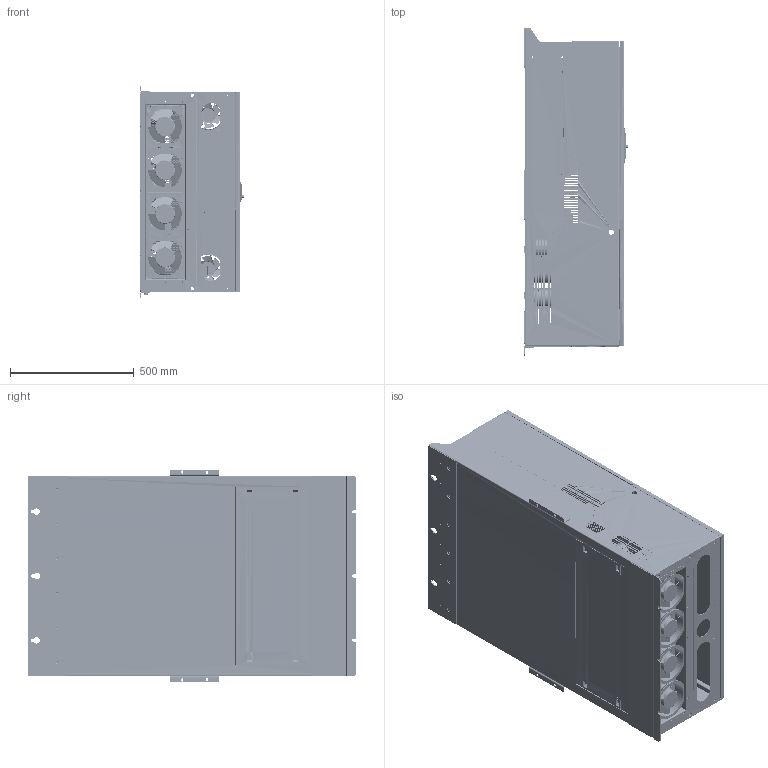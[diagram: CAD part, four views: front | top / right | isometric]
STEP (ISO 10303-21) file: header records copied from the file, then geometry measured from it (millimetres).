
FILE_DESCRIPTION (( 'STEP AP214' ), '1' );
FILE_NAME ('V2000-630KW.STEP', '2024-08-13T07:05:59', ( 'ﾏ珞褄' ), ( '' ), 'SwSTEP 2.0', 'SolidWorks 2022', '' );
FILE_SCHEMA (( 'AUTOMOTIVE_DESIGN' ));
Length unit declared in the file: millimetre
Products named in the file (265): V2000-630KW60.STEP; V2000-630KW160.STEP; V2000-630KW314.STEP; V2000-630KW39.STEP; V2000-630KW150.STEP; V2000-630KW297.STEP; V2000-630KW80.STEP; V2000-630KW212.STEP; V2000-630KW342.STEP; V2000-630KW42.STEP; V2000-630KW202.STEP; V2000-630KW112.STEP; V2000-630KW93.STEP; V2000-630KW33.STEP; V2000-630KW295.STEP; V2000-630KW275.STEP; V2000-630KW371.STEP; V2000-630KW38.STEP; V2000-630KW146.STEP; V2000-630KW341.STEP; V2000-630KW68.STEP; V2000-630KW141.STEP; V2000-630KW260.STEP; V2000-630KW328.STEP; V2000-630KW140.STEP; V2000-630KW284.STEP; V2000-630KW349.STEP; V2000-630KW178.STEP; V2000-630KW307.STEP; V2000-630KW147.STEP; V2000-630KW276.STEP; V2000-630KW194.STEP; V2000-630KW325.STEP; V2000-630KW25.STEP; V2000-630KW118.STEP; V2000-630KW376.STEP; V2000-630KW74.STEP; V2000-630KW10.STEP; V2000-630KW200.STEP; V2000-630KW105.STEP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
Assembly tree (264 placements, depth 3):
  V2000-630KW
    V2000-630KW.STEP
      V2000-630KW2.STEP
      V2000-630KW3.STEP
      V2000-630KW6.STEP
      V2000-630KW7.STEP
      V2000-630KW8.STEP
      V2000-630KW9.STEP
      V2000-630KW10.STEP
      V2000-630KW11.STEP
      V2000-630KW15.STEP
      V2000-630KW16.STEP
      V2000-630KW17.STEP
      V2000-630KW18.STEP
      V2000-630KW19.STEP
      V2000-630KW23.STEP
      V2000-630KW25.STEP
      V2000-630KW26.STEP
      V2000-630KW28.STEP
      V2000-630KW29.STEP
      V2000-630KW31.STEP
      V2000-630KW32.STEP
      V2000-630KW33.STEP
      V2000-630KW34.STEP
      V2000-630KW35.STEP
      V2000-630KW38.STEP
      V2000-630KW39.STEP
      V2000-630KW41.STEP
      V2000-630KW42.STEP
      V2000-630KW44.STEP
      V2000-630KW47.STEP
      V2000-630KW49.STEP
      V2000-630KW50.STEP
      V2000-630KW53.STEP
      V2000-630KW54.STEP
      V2000-630KW56.STEP
      V2000-630KW58.STEP
      V2000-630KW59.STEP
      V2000-630KW60.STEP
      V2000-630KW62.STEP
      V2000-630KW63.STEP
      V2000-630KW64.STEP
      V2000-630KW66.STEP
      V2000-630KW67.STEP
      V2000-630KW68.STEP
      V2000-630KW69.STEP
      V2000-630KW72.STEP
      V2000-630KW73.STEP
      V2000-630KW74.STEP
      V2000-630KW76.STEP
      V2000-630KW77.STEP
      V2000-630KW79.STEP
      V2000-630KW80.STEP
      V2000-630KW81.STEP
      V2000-630KW86.STEP
      V2000-630KW87.STEP
      V2000-630KW89.STEP
      V2000-630KW91.STEP
      V2000-630KW92.STEP
      V2000-630KW93.STEP
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Bounding box: 420.39 x 1327 x 860 mm (x, y, z)
Surface area: 14507372.3 mm2
Topology: 3 solids, 286 shells, 1969 faces, 13577 edges, 11709 vertices
Faces by surface type: plane 984, cylinder 778, bspline 163, cone 44
Entity records: 271117 total; most frequent: CARTESIAN_POINT 178756, ORIENTED_EDGE 19042, EDGE_CURVE 13553, B_SPLINE_CURVE_WITH_KNOTS 13371, VERTEX_POINT 11710, EDGE_LOOP 5708, DIRECTION 4130, FACE_BOUND 3752
